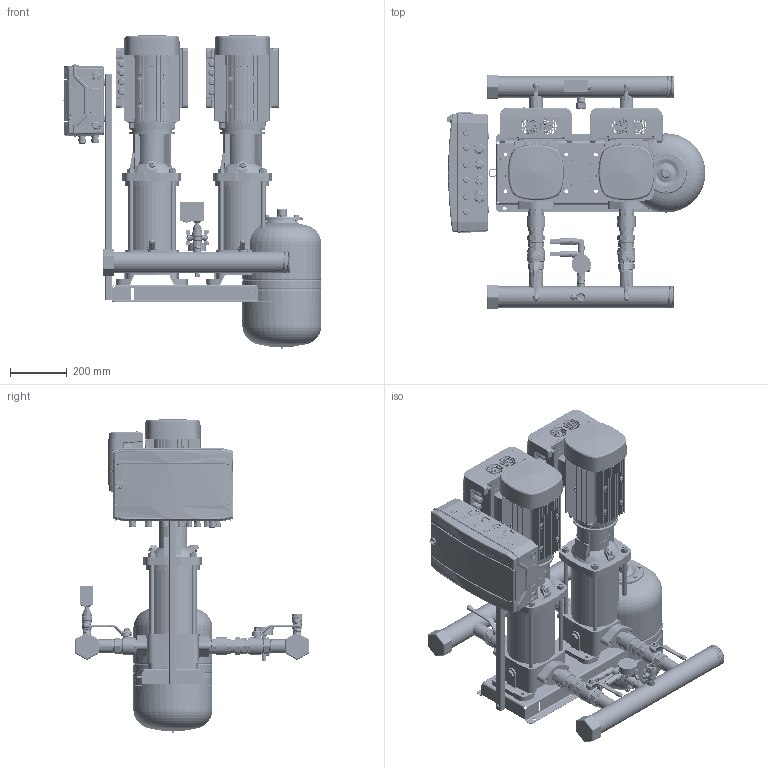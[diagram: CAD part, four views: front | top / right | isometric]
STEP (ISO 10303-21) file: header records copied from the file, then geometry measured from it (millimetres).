
FILE_DESCRIPTION(('CATIA V5 STEP Exchange','CAx-IF Rec.Pracs.--- Model Styling and Organization---1.4--- 2014-01-23','CAx-IF Rec.Pracs.---3D Tessellated Data Validation Properties---0.5---2014-09-14'),'2;1');
FILE_NAME('C:\Users\78432\YandexDisk\Drawings and 3D\3D Hydro Booster\Hydro-ME 3D\Hydro Models\Hydro ME 2 CRV10-xx\Hydro ME 2 CRVE10-8.stp','2023-09-20T09:58:03+00:00',('none'),('none'),'CATIA Version 5-6 Release 2019 SP6','CATIA V5 STEP AP242 v1','none');
FILE_SCHEMA(('AP242_MANAGED_MODEL_BASED_3D_ENGINEERING_MIM_LF {1 0 10303 442 1 1 4}'));
Length unit declared in the file: millimetre
Products named in the file (46): Hydro ME 2 CRVE10-8; 92051008; CRV10-8 Set; CRV 10-8_A_Oval_3kW; Base; Flange.1; Flange.2; Sleeve; Pumphead; Staybolt.1; Staybolt.2; Staybolt.3; Staybolt.4; Plug; AirVent; Motor; 92807544_9022-05; Hydraulica NY DN32 1,5 PN16; DN40_FM_LV_47.303.40; 92807557_9013-05; SAJ PDH30 4-7,5kW; 97941444; 405801; 405816; 91040267; 97941481; 00ID7527; Holder and CP 18mod; 92878909; Control ME (18mod); 2 sensors + manometer cpl.; manometr 16 bar; RPD-I-G1_2; 9021-01; 2070 1/2-1/2; _2020 1/2-1/2; 98594078; Tank 24L cpl.; DN20_FF_BF_47.300.20; WAV-24(D140 1'')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
Assembly tree (53 placements, depth 4):
  Hydro ME 2 CRVE10-8
    92051008
    CRV10-8 Set  x2
      CRV 10-8_A_Oval_3kW
        Base
        Flange.1
        Flange.2
        Sleeve
        Pumphead
        Staybolt.1
        Staybolt.2
        Staybolt.3
        Staybolt.4
        Plug
        AirVent
        Motor
      92807544_9022-05
      Hydraulica NY DN32 1,5 PN16
      DN40_FM_LV_47.303.40
      92807557_9013-05
      SAJ PDH30 4-7,5kW
    97941444  x2
      405801
      405816
      91040267
      97941481
    00ID7527  x2
    Holder and CP 18mod
      92878909
      Control ME (18mod)
    2 sensors + manometer cpl.
      manometr 16 bar
      RPD-I-G1_2  x2
      9021-01
      2070 1/2-1/2
      _2020 1/2-1/2
      98594078
    Tank 24L cpl.
      DN20_FF_BF_47.300.20
      9021-03
    Relay cpl.
      Relay RD-2R
      DN20_FF_BF_47.300.20
      2530 3/4-1/2
      _2530 1/2-1/4
    91078139
  WAV-24(D140 1'')
Bounding box: 916.82 x 829.22 x 1114.93 mm (x, y, z)
Volume: 75578112.7 mm3; surface area: 7254631.2 mm2
Topology: 182 solids, 414 shells, 28467 faces, 81152 edges, 54276 vertices
Faces by surface type: plane 11496, bspline 7304, cylinder 6775, cone 2087, torus 336, extrusion 260, sphere 209
Entity records: 689365 total; most frequent: CARTESIAN_POINT 345643, ORIENTED_EDGE 88497, EDGE_CURVE 44789, DIRECTION 40391, VERTEX_POINT 29928, VECTOR 18849, LINE 18784, B_SPLINE_CURVE_WITH_KNOTS 17720
